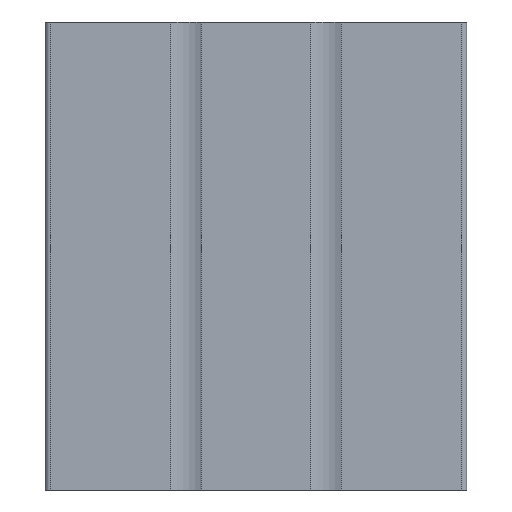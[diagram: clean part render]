
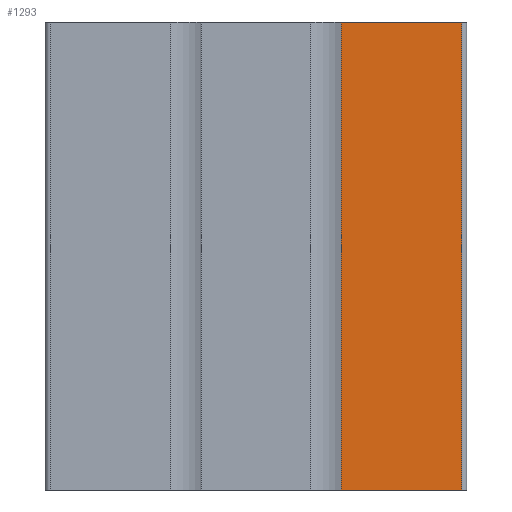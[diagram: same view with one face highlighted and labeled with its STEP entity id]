
A CAD part, front view. The second image highlights one B-rep face of the part: STEP entity #1293.
In plain terms, the highlighted planar face has unit normal (0, -1, 0).
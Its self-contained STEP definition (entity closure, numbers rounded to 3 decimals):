
#52=FACE_OUTER_BOUND('',#118,.T.);
#118=EDGE_LOOP('',(#882,#883,#884,#885));
#202=LINE('',#1842,#376);
#203=LINE('',#1845,#377);
#204=LINE('',#1847,#378);
#205=LINE('',#1848,#379);
#376=VECTOR('',#1489,10.);
#377=VECTOR('',#1492,10.);
#378=VECTOR('',#1493,10.);
#379=VECTOR('',#1494,10.);
#542=VERTEX_POINT('',#1838);
#543=VERTEX_POINT('',#1840);
#544=VERTEX_POINT('',#1844);
#545=VERTEX_POINT('',#1846);
#680=EDGE_CURVE('',#542,#543,#202,.T.);
#681=EDGE_CURVE('',#544,#542,#203,.T.);
#682=EDGE_CURVE('',#545,#543,#204,.T.);
#683=EDGE_CURVE('',#544,#545,#205,.T.);
#882=ORIENTED_EDGE('',*,*,#681,.T.);
#883=ORIENTED_EDGE('',*,*,#680,.T.);
#884=ORIENTED_EDGE('',*,*,#682,.F.);
#885=ORIENTED_EDGE('',*,*,#683,.F.);
#1235=PLANE('',#1363);
#1293=ADVANCED_FACE('',(#52),#1235,.T.);
#1363=AXIS2_PLACEMENT_3D('',#1843,#1490,#1491);
#1489=DIRECTION('',(0.,0.,1.));
#1490=DIRECTION('center_axis',(0.,-1.,0.));
#1491=DIRECTION('ref_axis',(1.,0.,0.));
#1492=DIRECTION('',(1.,0.,0.));
#1493=DIRECTION('',(1.,0.,0.));
#1494=DIRECTION('',(0.,0.,1.));
#1838=CARTESIAN_POINT('',(94.007,5.123,0.));
#1840=CARTESIAN_POINT('',(94.007,5.123,100.));
#1842=CARTESIAN_POINT('',(94.007,5.123,0.));
#1843=CARTESIAN_POINT('Origin',(68.257,5.123,0.));
#1844=CARTESIAN_POINT('',(68.257,5.123,0.));
#1845=CARTESIAN_POINT('',(68.257,5.123,0.));
#1846=CARTESIAN_POINT('',(68.257,5.123,100.));
#1847=CARTESIAN_POINT('',(68.257,5.123,100.));
#1848=CARTESIAN_POINT('',(68.257,5.123,0.));
